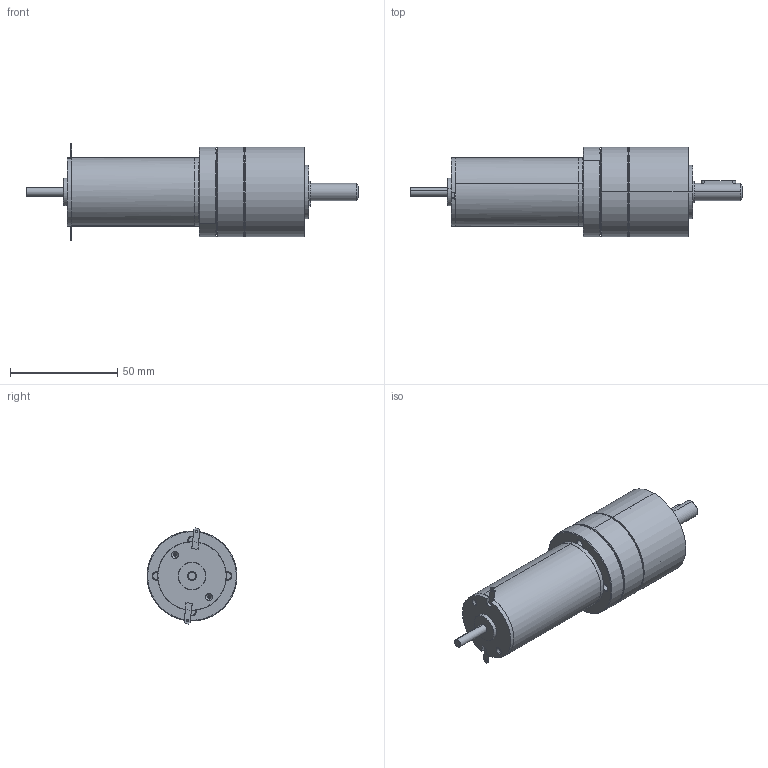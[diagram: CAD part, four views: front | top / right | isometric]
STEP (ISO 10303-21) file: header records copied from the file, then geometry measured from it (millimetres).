
FILE_DESCRIPTION (( 'STEP AP214' ), '1' );
FILE_NAME ('Amax32_+_PM42 -1etage.STEP', '2014-05-19T10:06:52', ( '' ), ( '' ), 'SwSTEP 2.0', 'SolidWorks 2013', '' );
FILE_SCHEMA (( 'AUTOMOTIVE_DESIGN' ));
Length unit declared in the file: millimetre
Products named in the file (16): Amax32_+_PM42 -1etage; AMax32GHP_Part; SCHRAUBE_1241978_10; MOTORRITZEL_Z17_1280117; 8001288_ANLAUFSCHEIBE_1ST_4; MOTORFLANSCH_1254861; P8209_8007589_ZAHNKRANZ_Z46_4; 8007606_DICHTRING_4; 3X3X16_D6885A_5; D471_8X0_8_5; 8001316_ABTRIEB_LK4_KPL_4; 8001305_LAGERBOLZEN_5; VBZ_K7841_ABTRIEB_AF0_5; DIN998_PS_8X14X1_5; D625-608-2RS_4; 8007595_LAGERFLANSCH_4
Assembly tree (23 placements, depth 3):
  Amax32_+_PM42 -1etage
    8007595_LAGERFLANSCH_4
    D625-608-2RS_4  x2
    DIN998_PS_8X14X1_5  x2
    8001316_ABTRIEB_LK4_KPL_4
      VBZ_K7841_ABTRIEB_AF0_5
      8001305_LAGERBOLZEN_5  x3
    D471_8X0_8_5
    3X3X16_D6885A_5
    8007606_DICHTRING_4  x2
    P8209_8007589_ZAHNKRANZ_Z46_4
    MOTORFLANSCH_1254861
    8001288_ANLAUFSCHEIBE_1ST_4
    MOTORRITZEL_Z17_1280117
    SCHRAUBE_1241978_10  x4
    AMax32GHP_Part
Bounding box: 155 x 42 x 44.9 mm (x, y, z)
Volume: 64593.9 mm3; surface area: 50179.7 mm2
Topology: 19 solids, 45 shells, 863 faces, 2185 edges, 1401 vertices
Faces by surface type: cylinder 409, plane 278, cone 120, bspline 52, torus 4
Entity records: 25428 total; most frequent: CARTESIAN_POINT 5482, DIRECTION 4145, ORIENTED_EDGE 3658, EDGE_CURVE 1857, AXIS2_PLACEMENT_3D 1598, VERTEX_POINT 1211, LINE 949, VECTOR 949
